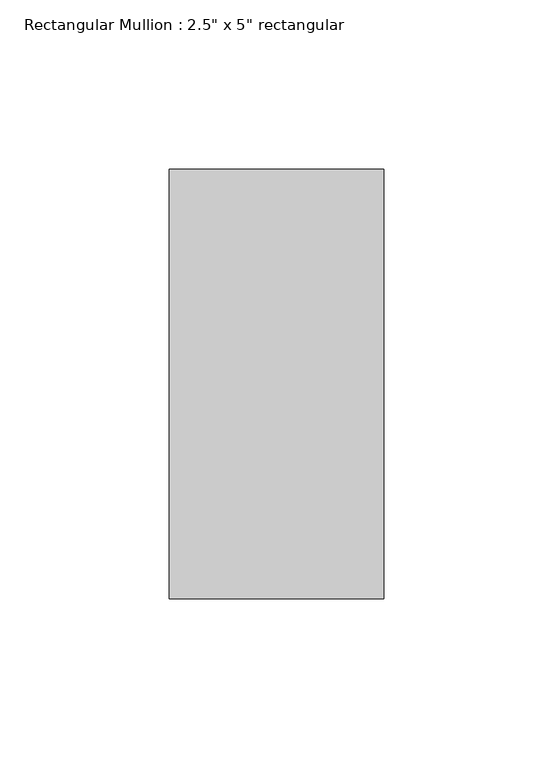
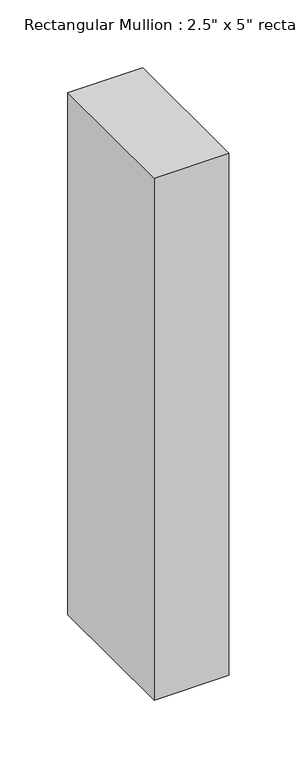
"""IFC4 building model written with IfcOpenShell, lengths in millimetres: member geometry."""

from ifc_helpers import new_model, si_unit, frame, origin, place, context, project, spatial, polyline, outline, extrude, source, transform, mapped, element, save


def member_23fb2982(model_context):
    return source(origin(), model_context, "Body", "SweptSolid", [
        extrude(outline(polyline([(0.0, 63.5), (0.0, -63.5), (-63.5, -63.5), (-63.5, 63.5), (0.0, 63.5)])), frame((0.0, 0.0, -469.4025577), z_axis=(0.0, 0.0, 1.0), x_axis=(1.0, 0.0, 0.0)), (0.0, 0.0, 1.0), 469.4025577),
    ])


if __name__ == "__main__":
    model = new_model("IFC4")
    model_context = context("Model", 3, world=origin())
    ifc_project = project(units=[si_unit("LENGTHUNIT", "METRE", prefix="MILLI")], contexts=[model_context])
    site = spatial("IfcSite", under=ifc_project)
    building = spatial("IfcBuilding", under=site)
    placement = place(None, origin())
    member_shape = member_23fb2982(model_context)
    element("IfcMember", 1, ObjectType="Rectangular Mullion : 2.5\" x 5\" rectangular", at=placement, inside=building, context=model_context, shape_type="MappedRepresentation", body=[
        mapped(member_shape, transform((0.0, 0.0, 0.0), x_axis=(1.0, 0.0, 0.0), y_axis=(0.0, 1.0, 0.0), z_axis=(0.0, 0.0, 1.0))),
    ])
    save(model, "model.ifc")
